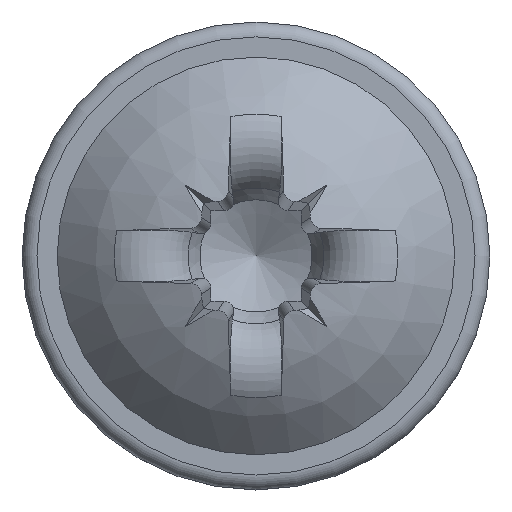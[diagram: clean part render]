
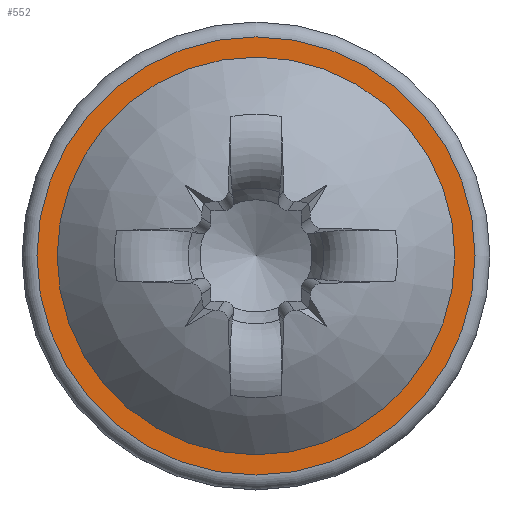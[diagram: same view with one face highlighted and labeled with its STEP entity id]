
A CAD part, top view. The second image highlights one B-rep face of the part: STEP entity #552.
In plain terms, the highlighted planar face has unit normal (0, 0, 1).
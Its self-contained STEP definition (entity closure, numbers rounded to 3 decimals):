
#129=PLANE('',#2518);
#552=ADVANCED_FACE('',(#913,#914),#129,.F.);
#913=FACE_BOUND('',#937,.T.);
#914=FACE_BOUND('',#938,.T.);
#937=EDGE_LOOP('',(#1193));
#938=EDGE_LOOP('',(#1194));
#1193=ORIENTED_EDGE('',*,*,#2160,.T.);
#1194=ORIENTED_EDGE('',*,*,#2109,.F.);
#1873=VERTEX_POINT('',#5511);
#1922=VERTEX_POINT('',#5821);
#2109=EDGE_CURVE('',#1873,#1873,#2424,.T.);
#2160=EDGE_CURVE('',#1922,#1922,#2459,.T.);
#2424=CIRCLE('',#2476,2.338);
#2459=CIRCLE('',#2517,2.575);
#2476=AXIS2_PLACEMENT_3D('',#5510,#2588,#2589);
#2517=AXIS2_PLACEMENT_3D('',#5820,#2671,#2672);
#2518=AXIS2_PLACEMENT_3D('',#5822,#2673,#2674);
#2588=DIRECTION('',(0.,0.,1.));
#2589=DIRECTION('',(1.,0.,0.));
#2671=DIRECTION('',(0.,0.,1.));
#2672=DIRECTION('',(-1.,0.,0.));
#2673=DIRECTION('',(0.,0.,-1.));
#2674=DIRECTION('',(-1.,0.,0.));
#5510=CARTESIAN_POINT('',(0.,0.,0.7));
#5511=CARTESIAN_POINT('',(2.338,0.,0.7));
#5820=CARTESIAN_POINT('',(0.,0.,0.7));
#5821=CARTESIAN_POINT('',(-2.575,0.,0.7));
#5822=CARTESIAN_POINT('',(0.,2.75,0.7));
